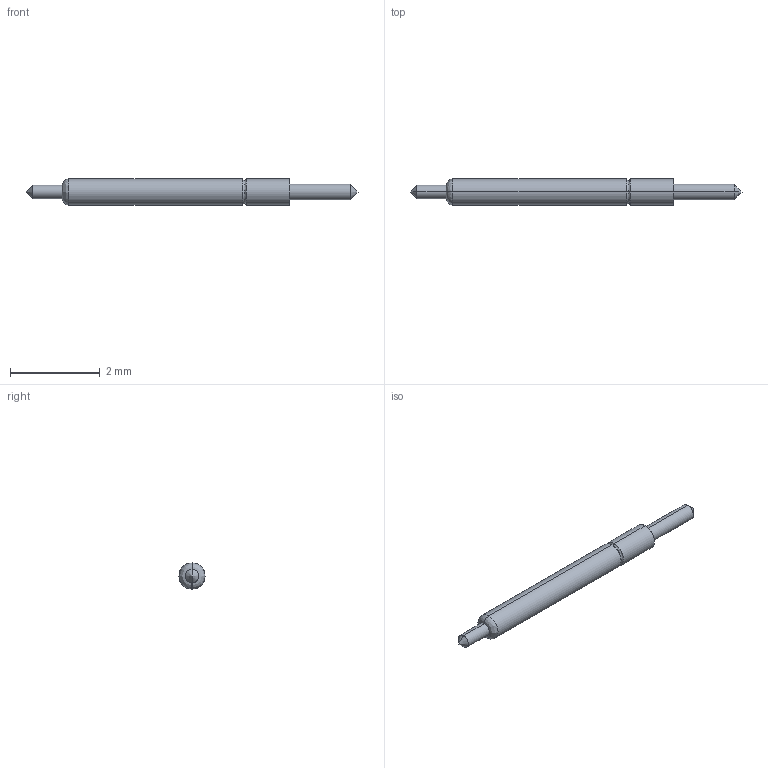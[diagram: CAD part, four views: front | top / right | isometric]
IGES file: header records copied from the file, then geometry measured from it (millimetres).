
Start section: SolidWorks IGES file using analytic representation for surfaces
Global section: file name: Z:\probe solid model mockups\Solidworks models\IGES Files\CSP8-20 IGES files\CSP8-20BB.IGS; native system: SolidWorks 2006 by SolidWorks Corporation; preprocessor: SolidWorks 2006 by SolidWorks Corporation; author: tsakatani; date: 080108.152814; units: inch
Bounding box: 7.42 x 0.58 x 0.58 mm (x, y, z)
Surface area: 12 mm2 (no closed solid volume)
Topology: 0 solids, 0 shells, 19 faces, 104 edges, 100 vertices
Faces by surface type: revolution 12, bspline 7
